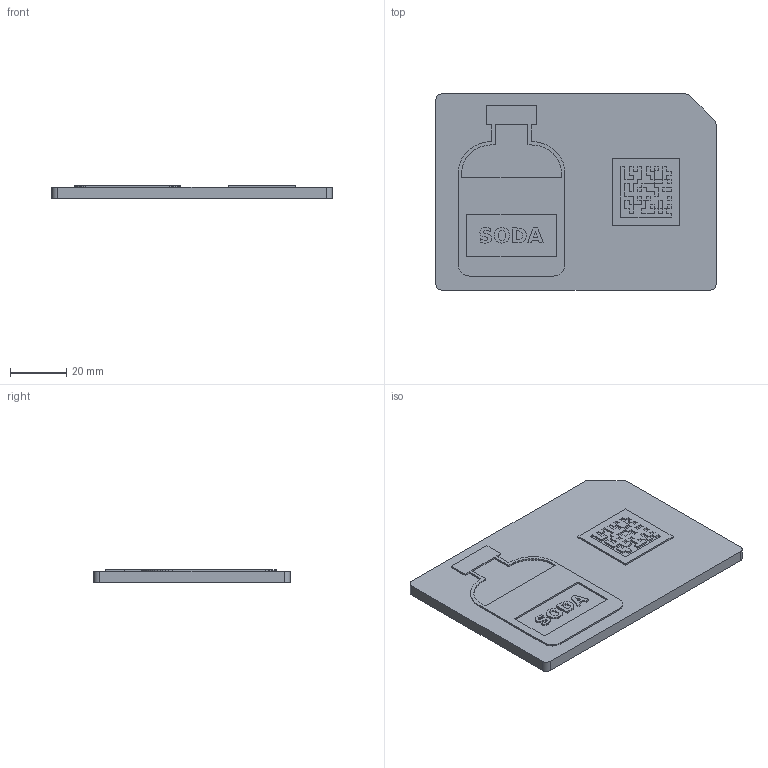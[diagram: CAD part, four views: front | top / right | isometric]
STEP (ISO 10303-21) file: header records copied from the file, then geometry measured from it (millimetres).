
FILE_DESCRIPTION(('Open CASCADE Model'),'2;1');
FILE_NAME('Open CASCADE Shape Model','2026-10-14T18:09:55',('Author'),( 'Open CASCADE'),'Open CASCADE STEP processor 7.9','Open CASCADE 7.9' ,'Unknown');
FILE_SCHEMA(('AUTOMOTIVE_DESIGN { 1 0 10303 214 1 1 1 1 }'));
Length unit declared in the file: millimetre
Products named in the file (3): SN-4801; SN-4801_base_dark; SN-4801_features_red
Assembly tree (2 placements, depth 2):
  SN-4801
    SN-4801_base_dark
    SN-4801_features_red
Bounding box: 100 x 70 x 4.6 mm (x, y, z)
Volume: 28696.5 mm3; surface area: 20098.8 mm2
Topology: 7 solids, 7 shells, 768 faces, 2184 edges, 1456 vertices
Faces by surface type: plane 763, cylinder 5
Entity records: 52285 total; most frequent: CARTESIAN_POINT 9509, DIRECTION 7384, LINE 5814, VECTOR 5814, ORIENTED_EDGE 4368, PCURVE 4368, DEFINITIONAL_REPRESENTATION 4368, EDGE_CURVE 2184
